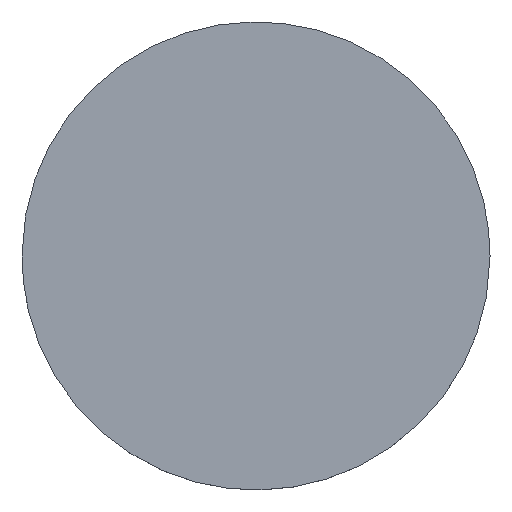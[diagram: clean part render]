
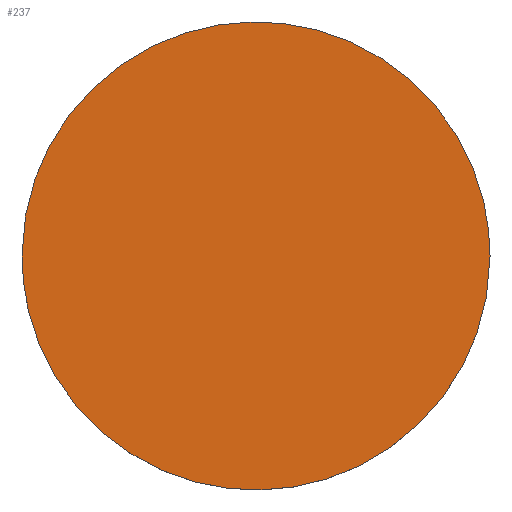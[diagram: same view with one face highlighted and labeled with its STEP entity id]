
A CAD part, top view. The second image highlights one B-rep face of the part: STEP entity #237.
In plain terms, the highlighted planar face has unit normal (0, 0, 1).
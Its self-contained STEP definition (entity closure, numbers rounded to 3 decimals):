
#45=(
BOUNDED_CURVE()
B_SPLINE_CURVE(2,(#3063,#3064,#3065,#3066,#3067),.UNSPECIFIED.,.F.,.F.)
B_SPLINE_CURVE_WITH_KNOTS((3,2,3),(-1570.796,-1178.097,-785.398),
 .UNSPECIFIED.)
CURVE()
GEOMETRIC_REPRESENTATION_ITEM()
RATIONAL_B_SPLINE_CURVE((1.,0.707,1.,0.707,1.))
REPRESENTATION_ITEM('')
);
#49=(
BOUNDED_CURVE()
B_SPLINE_CURVE(2,(#3077,#3078,#3079,#3080,#3081),.UNSPECIFIED.,.F.,.F.)
B_SPLINE_CURVE_WITH_KNOTS((3,2,3),(-785.398,-392.699,
0.),.UNSPECIFIED.)
CURVE()
GEOMETRIC_REPRESENTATION_ITEM()
RATIONAL_B_SPLINE_CURVE((1.,0.707,1.,0.707,1.))
REPRESENTATION_ITEM('')
);
#237=ADVANCED_FACE('',(#381),#1928,.T.);
#381=FACE_OUTER_BOUND('',#525,.T.);
#525=EDGE_LOOP('',(#868,#869));
#868=ORIENTED_EDGE('',*,*,#1292,.F.);
#869=ORIENTED_EDGE('',*,*,#1288,.F.);
#1288=EDGE_CURVE('',#1768,#1770,#45,.T.);
#1292=EDGE_CURVE('',#1770,#1768,#49,.T.);
#1768=VERTEX_POINT('',#3059);
#1770=VERTEX_POINT('',#3061);
#1928=PLANE('',#2072);
#2072=AXIS2_PLACEMENT_3D('',#3047,#2200,$);
#2200=DIRECTION('',(0.,0.,1.));
#3047=CARTESIAN_POINT('',(312.5,-312.5,400.));
#3059=CARTESIAN_POINT('',(250.,0.,400.));
#3061=CARTESIAN_POINT('',(-250.,0.,400.));
#3063=CARTESIAN_POINT('',(250.,0.,400.));
#3064=CARTESIAN_POINT('',(250.,-250.,400.));
#3065=CARTESIAN_POINT('',(0.,-250.,400.));
#3066=CARTESIAN_POINT('',(-250.,-250.,400.));
#3067=CARTESIAN_POINT('',(-250.,0.,400.));
#3077=CARTESIAN_POINT('',(-250.,0.,400.));
#3078=CARTESIAN_POINT('',(-250.,250.,400.));
#3079=CARTESIAN_POINT('',(0.,250.,400.));
#3080=CARTESIAN_POINT('',(250.,250.,400.));
#3081=CARTESIAN_POINT('',(250.,0.,400.));
